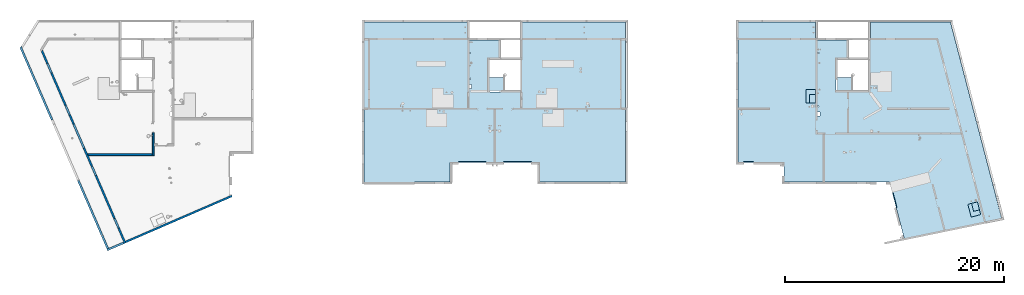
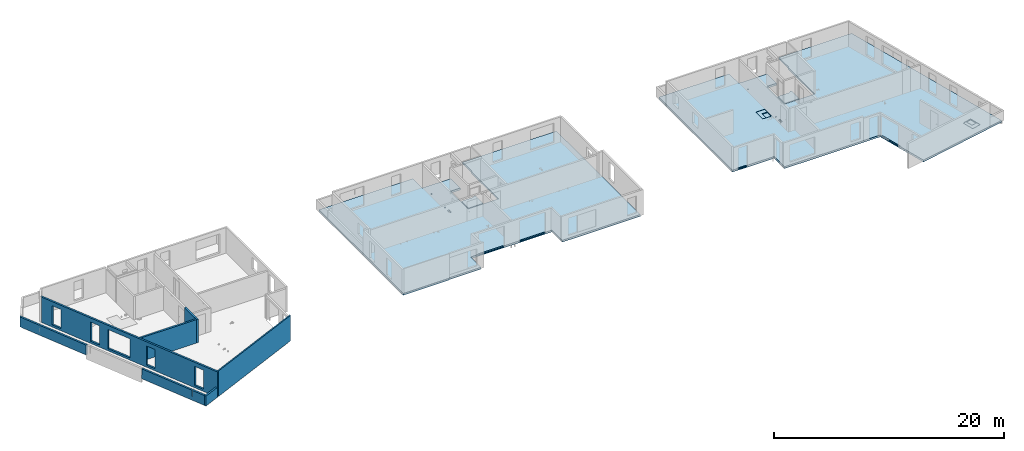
# One storey, part 2 of 28: 7 walls, 4 slabs, 19 openings.
"""IFC2X3 building model written with IfcOpenShell, lengths in centimetres."""

from ifc_helpers import new_model, entity, si_unit, converted_unit, derived_unit, direction, frame, frame_2d, origin, origin_2d_with_axis, place, context, subcontext, project, spatial, polyline, circle_curve, parameter, trimmed, segment, composite_curve, rectangle, circle, outline, extrude, clip, bounded_halfspace, material, layer, layer_set, layer_usage, type_object, element, save


model = new_model("IFC2X3")

# Units and contexts
model_context = context("Model", 3, precision=0.001, world=origin(), true_north=direction((6.12303176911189e-17, 1.0)))
body_context = subcontext(model_context, "Body", "Model", "MODEL_VIEW")
ifc_project = project(units=[si_unit("LENGTHUNIT", "METRE", prefix="CENTI"), si_unit("AREAUNIT", "SQUARE_METRE"), si_unit("VOLUMEUNIT", "CUBIC_METRE"), converted_unit("PLANEANGLEUNIT", "DEGREE", entity("IfcRatioMeasure", 0.0174532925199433), si_unit("PLANEANGLEUNIT", "RADIAN"), dimensions=[0, 0, 0, 0, 0, 0, 0]), si_unit("MASSUNIT", "GRAM", prefix="KILO"), derived_unit("MASSDENSITYUNIT", [(si_unit("MASSUNIT", "GRAM", prefix="KILO"), 1), (si_unit("LENGTHUNIT", "METRE"), -3)]), si_unit("TIMEUNIT", "SECOND"), si_unit("FREQUENCYUNIT", "HERTZ"), si_unit("THERMODYNAMICTEMPERATUREUNIT", "DEGREE_CELSIUS"), derived_unit("THERMALTRANSMITTANCEUNIT", [(si_unit("MASSUNIT", "GRAM", prefix="KILO"), 1), (si_unit("THERMODYNAMICTEMPERATUREUNIT", "KELVIN"), -1), (si_unit("TIMEUNIT", "SECOND"), -3)]), derived_unit("VOLUMETRICFLOWRATEUNIT", [(si_unit("LENGTHUNIT", "METRE"), 3), (si_unit("TIMEUNIT", "SECOND"), -1)]), si_unit("ELECTRICCURRENTUNIT", "AMPERE"), si_unit("ELECTRICVOLTAGEUNIT", "VOLT"), si_unit("POWERUNIT", "WATT"), si_unit("FORCEUNIT", "NEWTON"), si_unit("ILLUMINANCEUNIT", "LUX"), si_unit("LUMINOUSFLUXUNIT", "LUMEN"), si_unit("LUMINOUSINTENSITYUNIT", "CANDELA"), derived_unit("USERDEFINED", [(si_unit("MASSUNIT", "GRAM", prefix="KILO"), -1), (si_unit("LENGTHUNIT", "METRE"), -2), (si_unit("TIMEUNIT", "SECOND"), 3), (si_unit("LUMINOUSFLUXUNIT", "LUMEN"), 1)]), derived_unit("LINEARVELOCITYUNIT", [(si_unit("LENGTHUNIT", "METRE"), 1), (si_unit("TIMEUNIT", "SECOND"), -1)]), si_unit("PRESSUREUNIT", "PASCAL"), derived_unit("USERDEFINED", [(si_unit("LENGTHUNIT", "METRE"), -2), (si_unit("MASSUNIT", "GRAM", prefix="KILO"), 1), (si_unit("TIMEUNIT", "SECOND"), -2)])], contexts=[model_context])

# Site, building, storey
site_placement = place(None, origin())
site = spatial("IfcSite", under=ifc_project, at=site_placement, Name="Default", CompositionType="ELEMENT")
building_placement = place(site_placement, origin())
building = spatial("IfcBuilding", under=site, at=building_placement, Name="CAGE 03", CompositionType="ELEMENT")
storey_placement = place(building_placement, frame((0.0, 0.0, 1420.0)))
storey = spatial("IfcBuildingStorey", under=building, at=storey_placement, Name="R+5", CompositionType="ELEMENT", Elevation=1420.0)

# Slab, openings
ifc_material_1 = material(Name="Béton, C25/30")
ifc_layer_1 = layer(ifc_material_1, 20.0)
ifc_layer_set_1 = layer_set([ifc_layer_1], Name="Sol:Dalle Béton - 20 cm")
ifc_layer_usage_1 = layer_usage(ifc_layer_set_1, "AXIS3", "POSITIVE", 0.0)
slab_1_placement = place(storey_placement, frame((5888.36582014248, 3809.1606660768, -20.0)))
slab_1 = element("IfcSlab", 1, at=slab_1_placement, inside=storey, material=ifc_layer_usage_1, Name="Sol:Dalle Béton - 20 cm", ObjectType="Sol:Dalle Béton - 20 cm", PredefinedType="FLOOR", context=body_context, shape_type="SweptSolid", body=[
    extrude(outline(polyline([(-37.0, 402.749999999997), (62.4999999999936, 402.749999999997), (62.4999999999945, 95.7499999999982), (-244.500000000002, 95.7499999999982), (-244.500000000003, 568.249999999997), (-250.0, 568.249999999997), (-250.0, 733.249999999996), (-1193.0, 733.249999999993), (-1193.0, -727.750000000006), (-408.0, -727.750000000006), (-408.0, -547.750000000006), (408.0, -547.750000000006), (408.0, -727.749999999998), (734.0, -727.749999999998), (734.0, -733.25), (1193.0, -733.249999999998), (1193.0, 733.25), (250.0, 733.249999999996), (250.0, 568.249999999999), (-37.0, 568.249999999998), (-37.0, 402.749999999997)])), frame((1193.0, 733.25, 20.0), z_axis=(0.0, 0.0, -1.0), x_axis=(-1.0, 0.0, 0.0)), (0.0, 0.0, 1.0), 20.0),
])
opening_1_placement = place(slab_1_placement, origin())
element("IfcOpeningElement", 2, at=opening_1_placement, cuts=slab_1, ObjectType="Opening", context=body_context, shape_type="SweptSolid", body=[
    extrude(rectangle(XDim=254.999999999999, YDim=26.0000000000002, at=origin_2d_with_axis()), frame((986.499999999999, 180.499999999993, 8.0)), (0.0, 0.0, 1.0), 11.9999999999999),
])
opening_2_placement = place(slab_1_placement, origin())
element("IfcOpeningElement", 3, at=opening_2_placement, cuts=slab_1, ObjectType="Opening", context=body_context, shape_type="SweptSolid", body=[
    extrude(rectangle(XDim=254.999999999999, YDim=25.9999999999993, at=origin_2d_with_axis()), frame((1399.49999999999, 180.499999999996, 8.0)), (0.0, 0.0, 1.0), 11.9999999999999),
])
opening_3_placement = place(slab_1_placement, origin())
element("IfcOpeningElement", 4, at=opening_3_placement, cuts=slab_1, ObjectType="Opening", context=body_context, shape_type="SweptSolid", body=[
    extrude(rectangle(XDim=39.9999999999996, YDim=19.9999999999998, at=origin_2d_with_axis()), frame((971.0, 878.0, -254.327930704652), z_axis=(0.0, 0.0, 1.0), x_axis=(0.0, -1.0, 0.0)), (0.0, 0.0, 1.0), 493.425926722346),
])
opening_4_placement = place(slab_1_placement, origin())
element("IfcOpeningElement", 5, at=opening_4_placement, cuts=slab_1, ObjectType="Opening", context=body_context, shape_type="SweptSolid", body=[
    extrude(circle(Radius=5.5, at=origin_2d_with_axis()), frame((966.500000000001, 948.0, 0.0)), (0.0, 0.0, 1.0), 20.0),
])
opening_5_placement = place(slab_1_placement, origin())
element("IfcOpeningElement", 6, at=opening_5_placement, cuts=slab_1, ObjectType="Opening", context=body_context, shape_type="SweptSolid", body=[
    extrude(circle(Radius=5.5, at=origin_2d_with_axis()), frame((966.5, 1182.49999999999, 0.0)), (0.0, 0.0, 1.0), 20.0),
])

ifc_layer_usage_2 = layer_usage(ifc_layer_set_1, "AXIS3", "POSITIVE", 0.0)
slab_2_placement = place(storey_placement, frame((9302.36582014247, 3296.83520563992, -20.0)))
slab_2 = element("IfcSlab", 7, at=slab_2_placement, inside=storey, material=ifc_layer_usage_2, Name="Sol:Dalle Béton - 20 cm", ObjectType="Sol:Dalle Béton - 20 cm", PredefinedType="FLOOR", context=body_context, shape_type="SweptSolid", body=[
    extrude(outline(polyline([(495.212416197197, 989.412730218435), (495.212416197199, 824.412730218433), (210.212416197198, 824.412730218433), (210.212416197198, 658.912730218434), (309.712416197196, 658.912730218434), (309.712416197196, 351.912730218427), (2.71241619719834, 351.912730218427), (2.71241619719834, 824.412730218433), (-2.78758380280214, 824.412730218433), (-2.78758380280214, 989.412730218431), (-734.339744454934, 989.412730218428), (-1203.2124161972, -805.973937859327), (-313.182179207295, -989.412730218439), (-177.949913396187, -471.587269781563), (784.212416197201, -471.587269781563), (784.212416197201, -291.587269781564), (1203.2124161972, -291.587269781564), (1203.2124161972, 989.412730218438), (495.212416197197, 989.412730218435)])), frame((1203.2124161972, 989.412730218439, 20.0), z_axis=(0.0, 0.0, -1.0), x_axis=(-1.0, 0.0, 0.0)), (0.0, 0.0, 1.0), 20.0),
])
opening_6_placement = place(slab_2_placement, origin())
element("IfcOpeningElement", 8, at=opening_6_placement, cuts=slab_2, ObjectType="Opening", context=body_context, shape_type="SweptSolid", body=[
    extrude(rectangle(XDim=90.0000000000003, YDim=26.0000000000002, at=origin_2d_with_axis()), frame((94.500000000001, 692.825460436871, 8.0)), (0.0, 0.0, 1.0), 11.9999999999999),
])
opening_7_placement = place(slab_2_placement, origin())
element("IfcOpeningElement", 9, at=opening_7_placement, cuts=slab_2, ObjectType="Opening", context=body_context, shape_type="SweptSolid", body=[
    extrude(rectangle(XDim=220.0, YDim=26.0000000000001, at=origin_2d_with_axis()), frame((1409.15874534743, 390.834914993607, 8.0), z_axis=(0.0, 0.0, 1.0), x_axis=(0.25267968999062, -0.967549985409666, 0.0)), (0.0, 0.0, 1.0), 11.9999999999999),
])
opening_8_placement = place(slab_2_placement, origin())
element("IfcOpeningElement", 10, at=opening_8_placement, cuts=slab_2, ObjectType="Opening", context=body_context, shape_type="SweptSolid", body=[
    extrude(rectangle(XDim=120.000000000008, YDim=90.0000000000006, at=origin_2d_with_axis()), frame((2155.07735478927, 267.304845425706, 17.0), z_axis=(0.0, 0.0, 1.0), x_axis=(-0.252679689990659, 0.967549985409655, 0.0)), (0.0, 0.0, 1.0), 13.9999999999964),
])
opening_9_placement = place(slab_2_placement, origin())
element("IfcOpeningElement", 11, at=opening_9_placement, cuts=slab_2, ObjectType="Opening", context=body_context, shape_type="SweptSolid", body=[
    extrude(rectangle(XDim=75.0000000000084, YDim=55.0000000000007, at=origin_2d_with_axis()), frame((2166.32418650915, 293.49661467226, 10.0), z_axis=(0.0, 0.0, 1.0), x_axis=(-0.252679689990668, 0.967549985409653, 0.0)), (0.0, 0.0, 1.0), 20.9999999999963),
])
opening_10_placement = place(slab_2_placement, origin())
element("IfcOpeningElement", 12, at=opening_10_placement, cuts=slab_2, ObjectType="Opening", context=body_context, shape_type="SweptSolid", body=[
    extrude(rectangle(XDim=120.000000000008, YDim=90.0000000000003, at=origin_2d_with_axis()), frame((663.0, 1300.82546043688, 17.0), z_axis=(0.0, 0.0, 1.0), x_axis=(0.0, -1.0, 0.0)), (0.0, 0.0, 1.0), 13.9999999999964),
])
opening_11_placement = place(slab_2_placement, origin())
element("IfcOpeningElement", 13, at=opening_11_placement, cuts=slab_2, ObjectType="Opening", context=body_context, shape_type="SweptSolid", body=[
    extrude(rectangle(XDim=75.0000000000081, YDim=54.9999999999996, at=origin_2d_with_axis()), frame((680.500000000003, 1278.32546043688, 10.0), z_axis=(0.0, 0.0, 1.0), x_axis=(0.0, -1.0, 0.0)), (0.0, 0.0, 1.0), 20.9999999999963),
])
opening_12_placement = place(slab_2_placement, origin())
element("IfcOpeningElement", 14, at=opening_12_placement, cuts=slab_2, ObjectType="Opening", context=body_context, shape_type="SweptSolid", body=[
    extrude(rectangle(XDim=39.9999999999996, YDim=19.9999999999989, at=origin_2d_with_axis()), frame((736.0, 1139.32546043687, -254.327930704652), z_axis=(0.0, 0.0, 1.0), x_axis=(0.0, -1.0, 0.0)), (0.0, 0.0, 1.0), 493.425926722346),
])
opening_13_placement = place(slab_2_placement, origin())
element("IfcOpeningElement", 15, at=opening_13_placement, cuts=slab_2, ObjectType="Opening", context=body_context, shape_type="SweptSolid", body=[
    extrude(circle(Radius=5.5, at=origin_2d_with_axis()), frame((731.500000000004, 1209.32546043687, 0.0)), (0.0, 0.0, 1.0), 20.0),
])
opening_14_placement = place(slab_2_placement, origin())
element("IfcOpeningElement", 16, at=opening_14_placement, cuts=slab_2, ObjectType="Opening", context=body_context, shape_type="SweptSolid", body=[
    extrude(circle(Radius=5.5, at=origin_2d_with_axis()), frame((731.500000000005, 1694.82546043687, 0.0)), (0.0, 0.0, 1.0), 20.0),
])

# Slabs
ifc_layer_usage_3 = layer_usage(ifc_layer_set_1, "AXIS3", "POSITIVE", 0.0)
slab_3_placement = place(storey_placement, origin())
element("IfcSlab", 17, at=slab_3_placement, inside=storey, material=ifc_layer_usage_3, Name="Sol:Dalle Béton - 20 cm", ObjectType="Sol:Dalle Béton - 20 cm", PredefinedType="FLOOR", context=body_context, shape_type="SweptSolid", body=[
    extrude(outline(composite_curve([segment(polyline([(-85.2340667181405, -89.0921462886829), (36.2717832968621, -89.0921462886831)]), True, "CONTINUOUS"), segment(polyline([(36.2717832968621, -89.0921462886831), (36.2717832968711, 17.4802710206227)]), True, "CONTINUOUS"), segment(trimmed(circle_curve(frame_2d((70.1894485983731, 17.4802710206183), x_axis=(-1.0, 0.0)), 33.9176653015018), [parameter(303.116761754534)], [parameter(0.0)], True, "PARAMETER"), False, "CONTINUOUS"), segment(trimmed(circle_curve(frame_2d((61.2659332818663, 57.4078537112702), x_axis=(-0.640486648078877, -0.76796930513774)), 15.0000000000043), [parameter(309.828117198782)], [parameter(0.0)], True, "PARAMETER"), False, "CONTINUOUS"), segment(polyline([(46.2659332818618, 57.4078537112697), (-85.2340667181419, 57.407853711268)]), True, "CONTINUOUS"), segment(polyline([(-85.2340667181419, 57.407853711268), (-85.2340667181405, -89.0921462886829)]), True, "CONTINUOUS")], self_intersect=False)), frame((7114.95796643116, 4730.39473279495, 0.0), z_axis=(0.0, 0.0, -1.0), x_axis=(0.0, 1.0, 0.0)), (0.0, 0.0, 1.0), 20.0),
])
ifc_layer_usage_4 = layer_usage(ifc_layer_set_1, "AXIS3", "POSITIVE", 0.0)
slab_4_placement = place(storey_placement, origin())
element("IfcSlab", 18, at=slab_4_placement, inside=storey, material=ifc_layer_usage_4, Name="Sol:Dalle Béton - 20 cm", ObjectType="Sol:Dalle Béton - 20 cm", PredefinedType="FLOOR", context=body_context, shape_type="SweptSolid", body=[
    extrude(outline(composite_curve([segment(polyline([(-85.2340667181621, -89.0921462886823), (36.2717832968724, -89.0921462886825)]), True, "CONTINUOUS"), segment(polyline([(36.2717832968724, -89.0921462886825), (36.2717832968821, 17.4802710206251)]), True, "CONTINUOUS"), segment(trimmed(circle_curve(frame_2d((70.1894485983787, 17.4802710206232), x_axis=(-1.0, 0.0)), 33.9176653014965), [parameter(303.116761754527)], [parameter(0.0)], True, "PARAMETER"), False, "CONTINUOUS"), segment(trimmed(circle_curve(frame_2d((61.2659332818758, 57.4078537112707), x_axis=(-0.640486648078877, -0.76796930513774)), 15.0000000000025), [parameter(309.828117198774)], [parameter(0.0)], True, "PARAMETER"), False, "CONTINUOUS"), segment(polyline([(46.2659332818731, 57.4078537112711), (-85.2340667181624, 57.4078537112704)]), True, "CONTINUOUS"), segment(polyline([(-85.2340667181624, 57.4078537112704), (-85.2340667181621, -89.0921462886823)]), True, "CONTINUOUS")], self_intersect=False)), frame((10291.9579664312, 4730.39473279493, 0.0), z_axis=(0.0, 0.0, -1.0), x_axis=(0.0, 1.0, 0.0)), (0.0, 0.0, 1.0), 20.0),
])

# Wall
ifc_layer_2 = layer(ifc_material_1, 18.0)
ifc_layer_set_2 = layer_set([ifc_layer_2], Name="Mur de base:Voile BA 18")
ifc_layer_usage_5 = layer_usage(ifc_layer_set_2, "AXIS2", "NEGATIVE", 9.0)
wall_type_1 = type_object("IfcWallType", Name="Mur de base:Voile BA 18", PredefinedType="STANDARD", material=ifc_layer_set_2)
wall_1_placement = place(storey_placement, frame((3548.48399710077, 3207.27273794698, 0.0), z_axis=(0.0, 0.0, 1.0), x_axis=(-0.397106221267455, 0.917772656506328, 0.0)))
element("IfcWallStandardCase", 19, at=wall_1_placement, inside=storey, type_object=wall_type_1, material=ifc_layer_usage_5, Name="Mur de base:Voile BA 18", ObjectType="Mur de base:Voile BA 18", context=body_context, shape_type="Clipping", body=[
    clip(clip(extrude(rectangle(XDim=680.999999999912, YDim=18.0000000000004, at=frame_2d((340.499999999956, 3.73034936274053e-14), x_axis=(-1.0, 0.0))), origin(), (0.0, 0.0, 1.0), 105.0), bounded_halfspace(frame((132.500000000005, -9.0, 40.0), z_axis=(0.0, 0.0, -1.0), x_axis=(0.0, -1.0, 0.0)), True, frame((132.500000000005, -9.0, 40.0), z_axis=(0.0, 0.0, -1.0), x_axis=(0.0, -1.0, 0.0)), polyline([(0.0, 0.0), (0.0, 2.0), (-18.0, 2.0), (-18.0, 0.0), (0.0, 0.0)]))), bounded_halfspace(frame((679.500000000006, -9.0, 40.0), z_axis=(0.0, 0.0, -1.0), x_axis=(0.0, -1.0, 0.0)), True, frame((679.500000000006, -9.0, 40.0), z_axis=(0.0, 0.0, -1.0), x_axis=(0.0, -1.0, 0.0)), polyline([(0.0, 0.0), (0.0, 2.0), (-18.0, 2.0), (-18.0, 0.0), (0.0, 0.0)]))),
])

# Wall, openings
ifc_layer_usage_6 = layer_usage(ifc_layer_set_2, "AXIS2", "NEGATIVE", 9.0)
wall_2_placement = place(storey_placement, frame((3707.06439740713, 3256.275356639, 0.0), z_axis=(0.0, 0.0, 1.0), x_axis=(-0.397106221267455, 0.917772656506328, 0.0)))
wall_2 = element("IfcWallStandardCase", 20, at=wall_2_placement, inside=storey, type_object=wall_type_1, material=ifc_layer_usage_6, Name="Mur de base:Voile BA 18", ObjectType="Mur de base:Voile BA 18", context=body_context, shape_type="SweptSolid", body=[
    extrude(outline(polyline([(1919.12049423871, -9.0), (1906.76053608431, 9.0), (18.0, 9.0), (0.0, 9.0), (0.0, -9.0), (18.0, -9.0), (867.111640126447, -9.0), (886.724340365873, -9.0), (1919.12049423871, -9.0)])), origin(), (0.0, 0.0, 1.0), 270.0),
])
opening_15_placement = place(wall_2_placement, frame((-1516.4221495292, 4695.32954212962, 0.0), z_axis=(0.0, 0.0, 1.0), x_axis=(-0.397106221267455, -0.917772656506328, 0.0)))
element("IfcOpeningElement", 21, at=opening_15_placement, cuts=wall_2, Name="Mur de base:Voile BA 18", ObjectType="Opening", context=body_context, shape_type="SweptSolid", body=[
    extrude(rectangle(XDim=203.0, YDim=95.0000000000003, at=frame_2d((1.06581410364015e-13, 3.97903932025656e-13), x_axis=(1.0, 0.0))), frame((3552.75651703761, 3974.01670145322, 124.5), z_axis=(-0.917772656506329, -0.397106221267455, 0.0), x_axis=(0.0, 0.0, 1.0)), (0.0, 0.0, 1.0), 304.799999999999),
])
opening_16_placement = place(wall_2_placement, frame((-1516.4221495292, 4695.32954212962, 0.0), z_axis=(0.0, 0.0, 1.0), x_axis=(-0.397106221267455, -0.917772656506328, 0.0)))
element("IfcOpeningElement", 22, at=opening_16_placement, cuts=wall_2, Name="Mur de base:Voile BA 18", ObjectType="Opening", context=body_context, shape_type="SweptSolid", body=[
    extrude(rectangle(XDim=203.0, YDim=94.9999999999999, at=frame_2d((1.06581410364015e-13, 1.98951966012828e-13), x_axis=(1.0, 0.0))), frame((3759.64885831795, 3495.85714741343, 124.5), z_axis=(-0.917772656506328, -0.397106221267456, 0.0), x_axis=(0.0, 0.0, 1.0)), (0.0, 0.0, 1.0), 304.8),
])
opening_17_placement = place(wall_2_placement, frame((-1516.4221495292, 4695.32954212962, 0.0), z_axis=(0.0, 0.0, 1.0), x_axis=(-0.397106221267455, -0.917772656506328, 0.0)))
element("IfcOpeningElement", 23, at=opening_17_placement, cuts=wall_2, Name="Mur de base:Voile BA 18", ObjectType="Opening", context=body_context, shape_type="SweptSolid", body=[
    extrude(rectangle(XDim=203.0, YDim=240.0, at=frame_2d((1.06581410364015e-13, -4.83169060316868e-13), x_axis=(1.0, 0.0))), frame((3415.5563175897, 4291.10715427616, 124.5), z_axis=(-0.917772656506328, -0.397106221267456, 0.0), x_axis=(0.0, 0.0, 1.0)), (0.0, 0.0, 1.0), 304.8),
])
opening_18_placement = place(wall_2_placement, frame((-1516.4221495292, 4695.32954212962, 0.0), z_axis=(0.0, 0.0, 1.0), x_axis=(-0.397106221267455, -0.917772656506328, 0.0)))
element("IfcOpeningElement", 24, at=opening_18_placement, cuts=wall_2, Name="Mur de base:Voile BA 18", ObjectType="Opening", context=body_context, shape_type="SweptSolid", body=[
    extrude(rectangle(XDim=203.0, YDim=95.0000000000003, at=frame_2d((1.06581410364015e-13, 3.97903932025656e-13), x_axis=(1.0, 0.0))), frame((3312.90435939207, 4528.35138598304, 124.5), z_axis=(-0.917772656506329, -0.397106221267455, 0.0), x_axis=(0.0, 0.0, 1.0)), (0.0, 0.0, 1.0), 304.8),
])
opening_19_placement = place(wall_2_placement, frame((-1516.4221495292, 4695.32954212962, 0.0), z_axis=(0.0, 0.0, 1.0), x_axis=(-0.397106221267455, -0.917772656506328, 0.0)))
element("IfcOpeningElement", 25, at=opening_19_placement, cuts=wall_2, Name="Mur de base:Voile BA 18", ObjectType="Opening", context=body_context, shape_type="SweptSolid", body=[
    extrude(rectangle(XDim=203.0, YDim=95.0000000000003, at=frame_2d((1.06581410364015e-13, 3.97903932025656e-13), x_axis=(1.0, 0.0))), frame((3147.31106512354, 4911.06258374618, 124.5), z_axis=(-0.917772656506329, -0.397106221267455, 0.0), x_axis=(0.0, 0.0, 1.0)), (0.0, 0.0, 1.0), 304.8),
])

# Walls
ifc_layer_usage_7 = layer_usage(ifc_layer_set_2, "AXIS2", "NEGATIVE", 9.0)
wall_3_placement = place(storey_placement, frame((3954.36582014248, 4064.66066607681, 0.0), z_axis=(0.0, 0.0, 1.0), x_axis=(-1.0, 0.0, 0.0)))
element("IfcWallStandardCase", 26, at=wall_3_placement, inside=storey, type_object=wall_type_1, material=ifc_layer_usage_7, Name="Mur de base:Voile BA 18", ObjectType="Mur de base:Voile BA 18", context=body_context, shape_type="SweptSolid", body=[
    extrude(outline(polyline([(591.165220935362, -9.0), (583.376895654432, 9.0), (0.0, 9.0), (0.0, -9.0), (591.165220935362, -9.0)])), origin(), (0.0, 0.0, 1.0), 250.0),
])
ifc_layer_usage_8 = layer_usage(ifc_layer_set_2, "AXIS2", "NEGATIVE", 9.0)
wall_4_placement = place(storey_placement, frame((3963.36582014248, 4266.66066607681, 0.0), z_axis=(0.0, 0.0, 1.0), x_axis=(0.0, -1.0, 0.0)))
element("IfcWallStandardCase", 27, at=wall_4_placement, inside=storey, type_object=wall_type_1, material=ifc_layer_usage_8, Name="Mur de base:Voile BA 18", ObjectType="Mur de base:Voile BA 18", context=body_context, shape_type="SweptSolid", body=[
    extrude(rectangle(XDim=211.000000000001, YDim=17.9999999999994, at=frame_2d((105.5, -2.65565347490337e-13), x_axis=(-1.0, 0.0))), origin(), (0.0, 0.0, 1.0), 250.0),
])
ifc_layer_usage_9 = layer_usage(ifc_layer_set_2, "AXIS2", "NEGATIVE", 9.0)
wall_5_placement = place(storey_placement, frame((3040.34426430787, 4381.66066607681, 0.0), z_axis=(0.0, 0.0, 1.0), x_axis=(-0.397106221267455, 0.917772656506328, 0.0)))
element("IfcWallStandardCase", 28, at=wall_5_placement, inside=storey, type_object=wall_type_1, material=ifc_layer_usage_9, Name="Mur de base:Voile BA 18", ObjectType="Mur de base:Voile BA 18", context=body_context, shape_type="Clipping", body=[
    clip(extrude(outline(polyline([(730.203778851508, -9.0), (717.843820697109, 9.0), (3.89416264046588, 9.0), (0.0, 9.0), (0.0, 0.0), (0.0, -9.0), (708.368748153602, -9.0), (730.203778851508, -9.0)])), origin(), (0.0, 0.0, 1.0), 105.0), bounded_halfspace(frame((503.893422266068, 9.0, 40.0), z_axis=(0.0, 0.0, 1.0), x_axis=(0.0, -1.0, 0.0)), False, frame((503.893422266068, 9.0, 40.0), z_axis=(0.0, 0.0, 1.0), x_axis=(0.0, -1.0, 0.0)), polyline([(0.0, 0.0), (18.0, 0.0), (18.0, 2.0), (0.0, 2.0), (0.0, 0.0)]))),
])
ifc_material_2 = material(Name="Béton, panneaux préfa 30/37")
ifc_layer_3 = layer(ifc_material_2, 5.5)
ifc_layer_4 = layer(ifc_material_1, 7.0)
ifc_layer_5 = layer(ifc_material_2, 5.5)
ifc_layer_set_3 = layer_set([ifc_layer_3, ifc_layer_4, ifc_layer_5], Name="Mur de base:premur 18")
ifc_layer_usage_10 = layer_usage(ifc_layer_set_3, "AXIS2", "POSITIVE", -9.0)
wall_type_2 = type_object("IfcWallType", Name="Mur de base:premur 18", PredefinedType="NOTDEFINED")
wall_6_placement = place(storey_placement, frame((3543.79799918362, 3195.43882804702, 0.0), z_axis=(0.0, 0.0, 1.0), x_axis=(0.917772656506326, 0.39710622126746, 0.0)))
element("IfcWallStandardCase", 29, at=wall_6_placement, inside=storey, type_object=wall_type_2, material=ifc_layer_usage_10, Name="Mur de base:premur 18", ObjectType="Mur de base:premur 18", context=body_context, shape_type="SweptSolid", body=[
    extrude(rectangle(XDim=165.000000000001, YDim=18.0000000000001, at=frame_2d((82.5000000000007, 8.88178419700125e-15), x_axis=(-1.0, 0.0))), origin(), (0.0, 0.0, 1.0), 105.0),
])
ifc_layer_usage_11 = layer_usage(ifc_layer_set_3, "AXIS2", "POSITIVE", -9.0)
wall_7_placement = place(storey_placement, frame((3711.75039532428, 3268.10926653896, 0.0), z_axis=(0.0, 0.0, 1.0), x_axis=(0.917772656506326, 0.39710622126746, 0.0)))
element("IfcWallStandardCase", 30, at=wall_7_placement, inside=storey, type_object=wall_type_2, material=ifc_layer_usage_11, Name="Mur de base:premur 18", ObjectType="Mur de base:premur 18", context=body_context, shape_type="Clipping", body=[
    clip(clip(extrude(outline(polyline([(1051.50383592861, -9.0), (1051.51102982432, -8.98337381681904), (1059.29216120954, 9.0), (1039.67946097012, 9.0), (0.0, 9.0), (0.0, -9.0), (1031.89113568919, -9.0), (1051.50383592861, -9.0)])), origin(), (0.0, 0.0, 1.0), 270.0), bounded_halfspace(frame((0.0, 3.50000000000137, 250.0), z_axis=(0.0, 0.0, -1.0), x_axis=(-0.397106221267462, -0.917772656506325, 0.0)), True, frame((0.0, 3.50000000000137, 250.0), z_axis=(0.0, 0.0, -1.0), x_axis=(-0.397106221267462, -0.917772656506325, 0.0)), polyline([(0.0, 0.0), (-5.04774961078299, 2.18408421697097), (-417.910931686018, -952.005296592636), (-425.699256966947, -970.005296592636), (-419.706487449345, -970.005296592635), (0.0, 0.0)]))), bounded_halfspace(frame((1056.91239515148, 3.50000000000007, 250.0), z_axis=(0.0, -1.0, 0.0), x_axis=(0.0, 0.0, 1.0)), True, frame((1056.91239515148, 3.50000000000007, 250.0), z_axis=(0.0, -1.0, 0.0), x_axis=(0.0, 0.0, 1.0)), polyline([(0.0, 0.0), (20.0, 0.0), (20.0, 1056.91239515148), (0.0, 1056.91239515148), (0.0, 0.0)]))),
])

save(model, "model.ifc")
